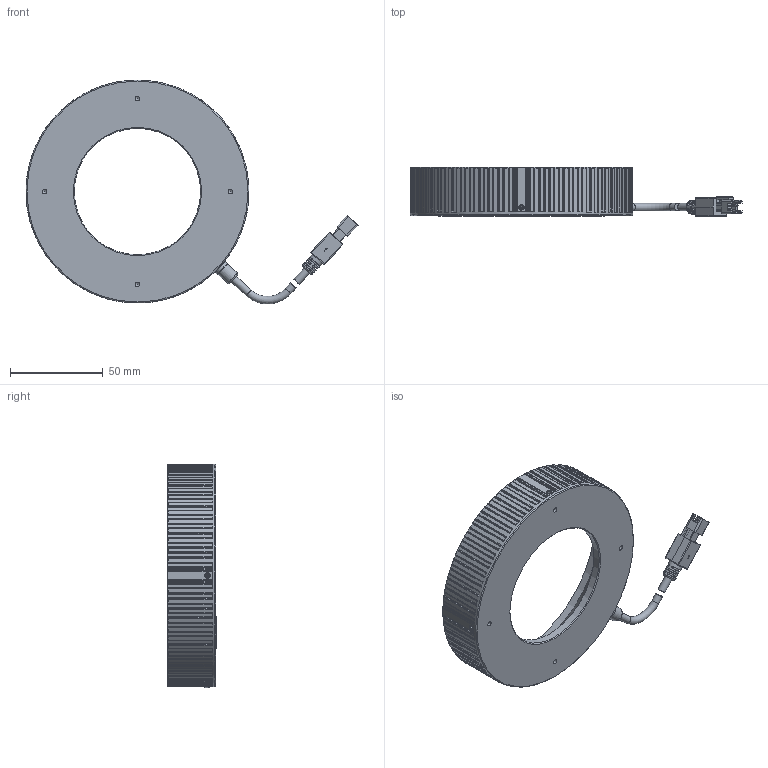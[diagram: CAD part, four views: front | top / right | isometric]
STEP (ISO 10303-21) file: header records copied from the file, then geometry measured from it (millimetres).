
FILE_DESCRIPTION (( 'STEP AP203' ), '1' );
FILE_NAME ('OPT-RI12045-X-V4.1尨砩芞.STEP', '2024-12-12T12:32:37', ( '' ), ( '' ), 'SwSTEP 2.0', 'SolidWorks 2016', '' );
FILE_SCHEMA (( 'CONFIG_CONTROL_DESIGN' ));
Length unit declared in the file: millimetre
Products named in the file (1): OPT-RI12045-X-V4.1尨砩芞
Bounding box: 178.68 x 26.35 x 120.52 mm (x, y, z)
Volume: 112570.4 mm3; surface area: 44183.6 mm2
Topology: 8 solids, 8 shells, 981 faces, 2696 edges, 1740 vertices
Faces by surface type: plane 458, cylinder 394, cone 100, bspline 21, torus 8
Full cylindrical faces by diameter (mm): 1.1 x4, 1.4 x4, 1.6 x4, 2 x4, 2.2 x4, 2.5 x4, 3.5 x1, 4.1 x4, 5.8 x1, 7.5 x2, 8 x1, 68 x1, 77.5 x1, 112 x1, 116 x1, 120 x1
Entity records: 32634 total; most frequent: CARTESIAN_POINT 8843, ORIENTED_EDGE 5182, DIRECTION 4598, EDGE_CURVE 2591, VERTEX_POINT 1715, AXIS2_PLACEMENT_3D 1672, LINE 1254, VECTOR 1254
